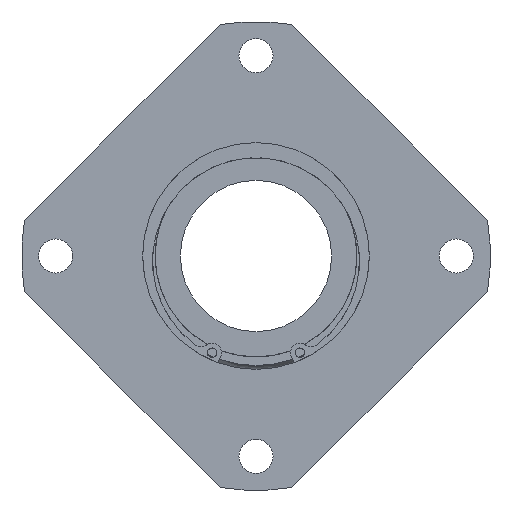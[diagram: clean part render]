
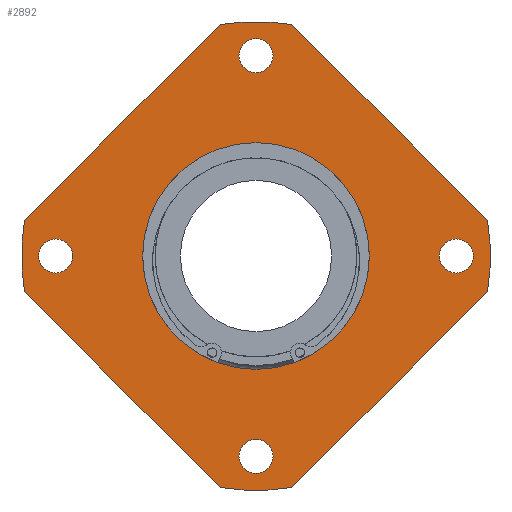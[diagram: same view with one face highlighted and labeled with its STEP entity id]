
A CAD part, left-side view. The second image highlights one B-rep face of the part: STEP entity #2892.
In plain terms, the highlighted planar face has unit normal (-1, 0, 0).
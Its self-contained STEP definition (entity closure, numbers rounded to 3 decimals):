
#2515=CARTESIAN_POINT('',(0.0,0.0,30.));
#2516=VERTEX_POINT('',#2515);
#2517=CARTESIAN_POINT('',(0.0,0.0,0.0));
#2518=DIRECTION('',(-1.0,0.0,0.0));
#2519=DIRECTION('',(0.0,0.0,1.0));
#2520=AXIS2_PLACEMENT_3D('',#2517,#2518,#2519);
#2521=CIRCLE('',#2520,30.);
#2522=EDGE_CURVE('',#2516,#2516,#2521,.T.);
#2607=CARTESIAN_POINT('',(0.0,-61.278,-9.432));
#2608=VERTEX_POINT('',#2607);
#2615=CARTESIAN_POINT('',(0.0,-9.432,-61.278));
#2616=VERTEX_POINT('',#2615);
#2617=CARTESIAN_POINT('',(0.0,-9.432,-61.278));
#2618=DIRECTION('',(0.0,-0.707,0.707));
#2619=VECTOR('',#2618,73.321);
#2620=LINE('',#2617,#2619);
#2621=EDGE_CURVE('',#2616,#2608,#2620,.T.);
#2647=CARTESIAN_POINT('',(0.0,61.278,9.432));
#2648=VERTEX_POINT('',#2647);
#2655=CARTESIAN_POINT('',(0.0,9.432,61.278));
#2656=VERTEX_POINT('',#2655);
#2657=CARTESIAN_POINT('',(0.0,9.432,61.278));
#2658=DIRECTION('',(0.0,0.707,-0.707));
#2659=VECTOR('',#2658,73.321);
#2660=LINE('',#2657,#2659);
#2661=EDGE_CURVE('',#2656,#2648,#2660,.T.);
#2687=CARTESIAN_POINT('',(0.0,9.432,-61.278));
#2688=VERTEX_POINT('',#2687);
#2695=CARTESIAN_POINT('',(0.0,61.278,-9.432));
#2696=VERTEX_POINT('',#2695);
#2697=CARTESIAN_POINT('',(0.0,61.278,-9.432));
#2698=DIRECTION('',(0.0,-0.707,-0.707));
#2699=VECTOR('',#2698,73.321);
#2700=LINE('',#2697,#2699);
#2701=EDGE_CURVE('',#2696,#2688,#2700,.T.);
#2727=CARTESIAN_POINT('',(0.0,-9.432,61.278));
#2728=VERTEX_POINT('',#2727);
#2735=CARTESIAN_POINT('',(0.0,-61.278,9.432));
#2736=VERTEX_POINT('',#2735);
#2737=CARTESIAN_POINT('',(0.0,-61.278,9.432));
#2738=DIRECTION('',(0.0,0.707,0.707));
#2739=VECTOR('',#2738,73.321);
#2740=LINE('',#2737,#2739);
#2741=EDGE_CURVE('',#2736,#2728,#2740,.T.);
#2766=CARTESIAN_POINT('',(0.0,0.0,0.0));
#2767=DIRECTION('',(-1.0,0.0,0.0));
#2768=DIRECTION('',(0.0,0.0,1.0));
#2769=AXIS2_PLACEMENT_3D('',#2766,#2767,#2768);
#2770=CIRCLE('',#2769,62.0);
#2771=EDGE_CURVE('',#2608,#2736,#2770,.T.);
#2790=CARTESIAN_POINT('',(0.0,0.0,0.0));
#2791=DIRECTION('',(-1.0,0.0,0.0));
#2792=DIRECTION('',(0.0,0.0,1.0));
#2793=AXIS2_PLACEMENT_3D('',#2790,#2791,#2792);
#2794=CIRCLE('',#2793,62.0);
#2795=EDGE_CURVE('',#2648,#2696,#2794,.T.);
#2806=CARTESIAN_POINT('',(0.0,0.0,0.0));
#2807=DIRECTION('',(-1.0,0.0,0.0));
#2808=DIRECTION('',(0.0,0.0,1.0));
#2809=AXIS2_PLACEMENT_3D('',#2806,#2807,#2808);
#2810=CIRCLE('',#2809,62.0);
#2811=EDGE_CURVE('',#2728,#2656,#2810,.T.);
#2824=CARTESIAN_POINT('',(0.0,0.0,46.));
#2825=DIRECTION('',(-1.0,0.0,0.0));
#2826=DIRECTION('',(0.0,0.0,1.0));
#2827=AXIS2_PLACEMENT_3D('',#2824,#2825,#2826);
#2828=PLANE('',#2827);
#2829=ORIENTED_EDGE('',*,*,#2621,.T.);
#2830=ORIENTED_EDGE('',*,*,#2771,.T.);
#2831=ORIENTED_EDGE('',*,*,#2741,.T.);
#2832=ORIENTED_EDGE('',*,*,#2811,.T.);
#2833=ORIENTED_EDGE('',*,*,#2661,.T.);
#2834=ORIENTED_EDGE('',*,*,#2795,.T.);
#2835=ORIENTED_EDGE('',*,*,#2701,.T.);
#2836=CARTESIAN_POINT('',(0.0,0.0,0.0));
#2837=DIRECTION('',(-1.0,0.0,0.0));
#2838=DIRECTION('',(0.0,0.0,1.0));
#2839=AXIS2_PLACEMENT_3D('',#2836,#2837,#2838);
#2840=CIRCLE('',#2839,62.0);
#2841=EDGE_CURVE('',#2688,#2616,#2840,.T.);
#2842=ORIENTED_EDGE('',*,*,#2841,.T.);
#2843=EDGE_LOOP('',(#2829,#2830,#2831,#2832,#2833,#2834,#2835,#2842));
#2844=FACE_OUTER_BOUND('',#2843,.T.);
#2845=ORIENTED_EDGE('',*,*,#2522,.F.);
#2846=EDGE_LOOP('',(#2845));
#2847=FACE_BOUND('',#2846,.T.);
#2848=CARTESIAN_POINT('',(0.0,4.5,53.));
#2849=VERTEX_POINT('',#2848);
#2850=CARTESIAN_POINT('',(0.0,0.,53.));
#2851=DIRECTION('',(1.0,0.0,0.0));
#2852=DIRECTION('',(0.0,1.0,0.0));
#2853=AXIS2_PLACEMENT_3D('',#2850,#2851,#2852);
#2854=CIRCLE('',#2853,4.5);
#2855=EDGE_CURVE('',#2849,#2849,#2854,.T.);
#2856=ORIENTED_EDGE('',*,*,#2855,.T.);
#2857=EDGE_LOOP('',(#2856));
#2858=FACE_BOUND('',#2857,.T.);
#2859=CARTESIAN_POINT('',(0.0,-53.,4.5));
#2860=VERTEX_POINT('',#2859);
#2861=CARTESIAN_POINT('',(0.0,-53.,0.));
#2862=DIRECTION('',(1.0,0.0,0.0));
#2863=DIRECTION('',(0.0,0.0,1.0));
#2864=AXIS2_PLACEMENT_3D('',#2861,#2862,#2863);
#2865=CIRCLE('',#2864,4.5);
#2866=EDGE_CURVE('',#2860,#2860,#2865,.T.);
#2867=ORIENTED_EDGE('',*,*,#2866,.T.);
#2868=EDGE_LOOP('',(#2867));
#2869=FACE_BOUND('',#2868,.T.);
#2870=CARTESIAN_POINT('',(0.0,-4.5,-53.));
#2871=VERTEX_POINT('',#2870);
#2872=CARTESIAN_POINT('',(0.0,0.,-53.));
#2873=DIRECTION('',(1.0,0.0,0.0));
#2874=DIRECTION('',(0.0,-1.0,0.0));
#2875=AXIS2_PLACEMENT_3D('',#2872,#2873,#2874);
#2876=CIRCLE('',#2875,4.5);
#2877=EDGE_CURVE('',#2871,#2871,#2876,.T.);
#2878=ORIENTED_EDGE('',*,*,#2877,.T.);
#2879=EDGE_LOOP('',(#2878));
#2880=FACE_BOUND('',#2879,.T.);
#2881=CARTESIAN_POINT('',(0.0,53.,-4.5));
#2882=VERTEX_POINT('',#2881);
#2883=CARTESIAN_POINT('',(0.0,53.,0.));
#2884=DIRECTION('',(1.0,0.0,0.0));
#2885=DIRECTION('',(0.0,0.0,-1.0));
#2886=AXIS2_PLACEMENT_3D('',#2883,#2884,#2885);
#2887=CIRCLE('',#2886,4.5);
#2888=EDGE_CURVE('',#2882,#2882,#2887,.T.);
#2889=ORIENTED_EDGE('',*,*,#2888,.T.);
#2890=EDGE_LOOP('',(#2889));
#2891=FACE_BOUND('',#2890,.T.);
#2892=ADVANCED_FACE('',(#2844,#2847,#2858,#2869,#2880,#2891),#2828,.T.);
